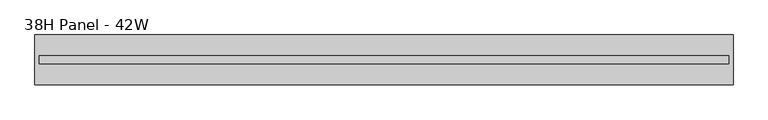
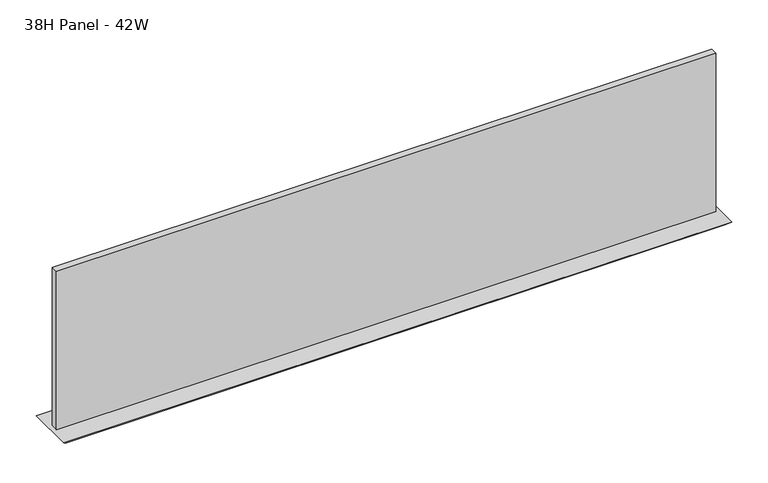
"""IFC4 building model written with IfcOpenShell, lengths in millimetres: furniture geometry, Steelcase - Montage - Tiles - 10H - Frameless Glass Stacker : 38H Panel - 42W."""

from ifc_helpers import new_model, si_unit, frame, origin, place, context, project, spatial, polyline, outline, extrude, faceted_brep, source, transform, mapped, element, save


def furniture_38h_panel_42w_7593bf0d(model_context):
    return source(origin(), model_context, "Body", "SolidModel", [
        faceted_brep([(1066.8, -38.1000015, 958.85), (0.0, -38.1000015, 958.85), (6.35, -31.7500015, 952.5), (1060.45, -31.7500015, 952.5), (6.35, 31.7500015, 952.5), (1060.45, 31.7500015, 952.5), (0.0, 38.1000015, 958.85), (1066.8, 38.1000015, 958.85)], [[[0, 1, 2, 3]], [[3, 2, 4, 5]], [[6, 7, 5, 4]], [[1, 0, 7, 6]], [[2, 1, 6, 4]], [[0, 3, 5, 7]]]),
        extrude(outline(polyline([(1060.0181828, -5.9944001), (6.7818001, -5.9944001), (6.7818001, 5.9944008), (1060.0181828, 5.9944008), (1060.0181828, -5.9944001)])), frame((0.0, 0.0, 958.85), z_axis=(0.0, 0.0, 1.0), x_axis=(1.0, 0.0, 0.0)), (0.0, 0.0, 1.0), 267.7160475),
    ])


if __name__ == "__main__":
    model = new_model("IFC4")
    model_context = context("Model", 3, world=origin())
    ifc_project = project(units=[si_unit("LENGTHUNIT", "METRE", prefix="MILLI")], contexts=[model_context])
    site = spatial("IfcSite", under=ifc_project)
    building = spatial("IfcBuilding", under=site)
    placement = place(None, origin())
    furniture_38h_panel_42w_shape = furniture_38h_panel_42w_7593bf0d(model_context)
    element("IfcFurniture", 1, ObjectType="Steelcase - Montage - Tiles - 10H - Frameless Glass Stacker : 38H Panel - 42W", at=placement, inside=building, context=model_context, shape_type="MappedRepresentation", body=[
        mapped(furniture_38h_panel_42w_shape, transform((0.0, 0.0, 0.0), x_axis=(1.0, 0.0, 0.0), y_axis=(0.0, 1.0, 0.0), z_axis=(0.0, 0.0, 1.0))),
    ])
    save(model, "model.ifc")
